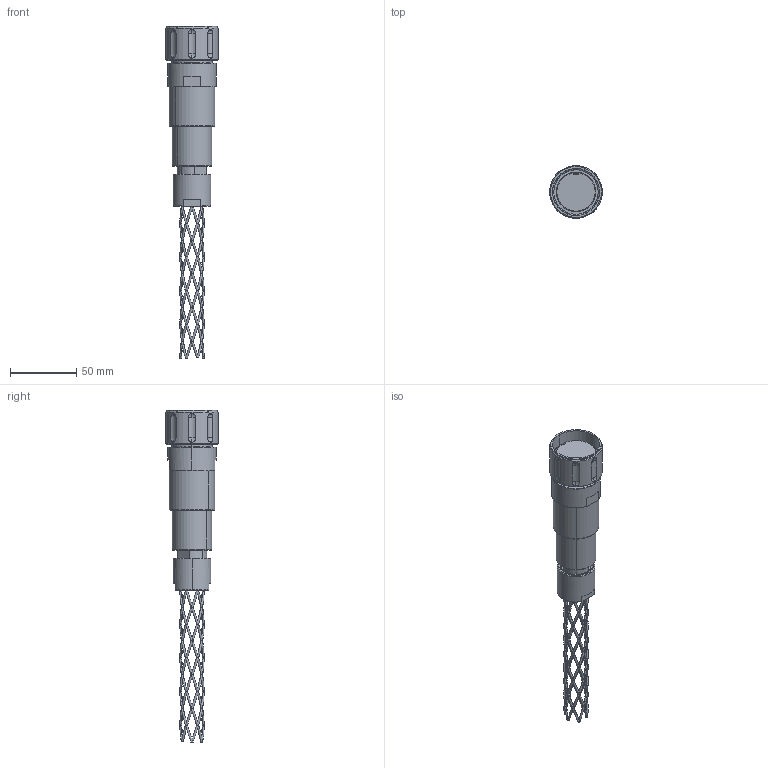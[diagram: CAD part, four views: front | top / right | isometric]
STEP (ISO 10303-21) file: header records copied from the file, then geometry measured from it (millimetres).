
FILE_DESCRIPTION (( 'STEP AP214' ), '1' );
FILE_NAME ('QPLEX3-PMX-XXXX-GXXX.STEP', '2025-04-07T15:15:25', ( '' ), ( '' ), 'SwSTEP 2.0', 'SolidWorks 2024', '' );
FILE_SCHEMA (( 'AUTOMOTIVE_DESIGN' ));
Length unit declared in the file: inch
Products named in the file (1): QPLEX3-PMX-XXXX-GXXX
Bounding box: 39.62 x 39.62 x 250.41 mm (x, y, z)
Volume: 110366.1 mm3; surface area: 27352.4 mm2
Topology: 1 solids, 4 shells, 383 faces, 1047 edges, 584 vertices
Faces by surface type: bspline 223, cylinder 56, plane 47, sphere 32, cone 16, torus 9
Entity records: 105418 total; most frequent: CARTESIAN_POINT 98292, ORIENTED_EDGE 2092, EDGE_CURVE 1046, DIRECTION 893, VERTEX_POINT 584, EDGE_LOOP 404, AXIS2_PLACEMENT_3D 388, FACE_OUTER_BOUND 383
